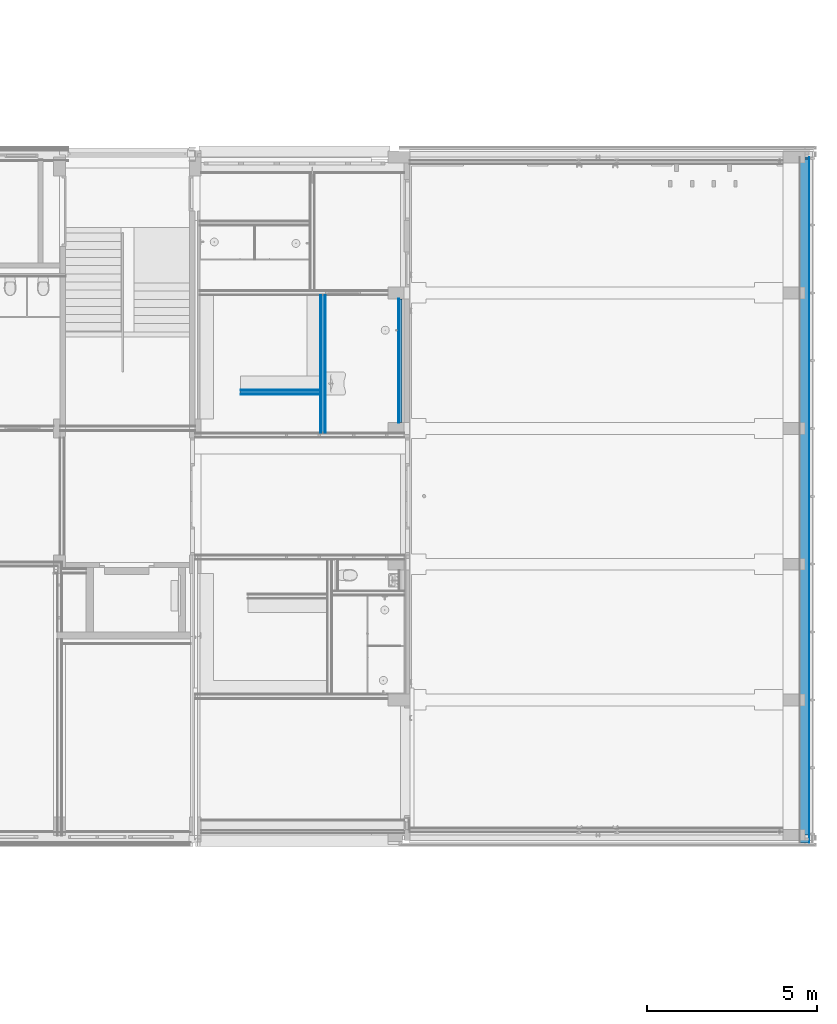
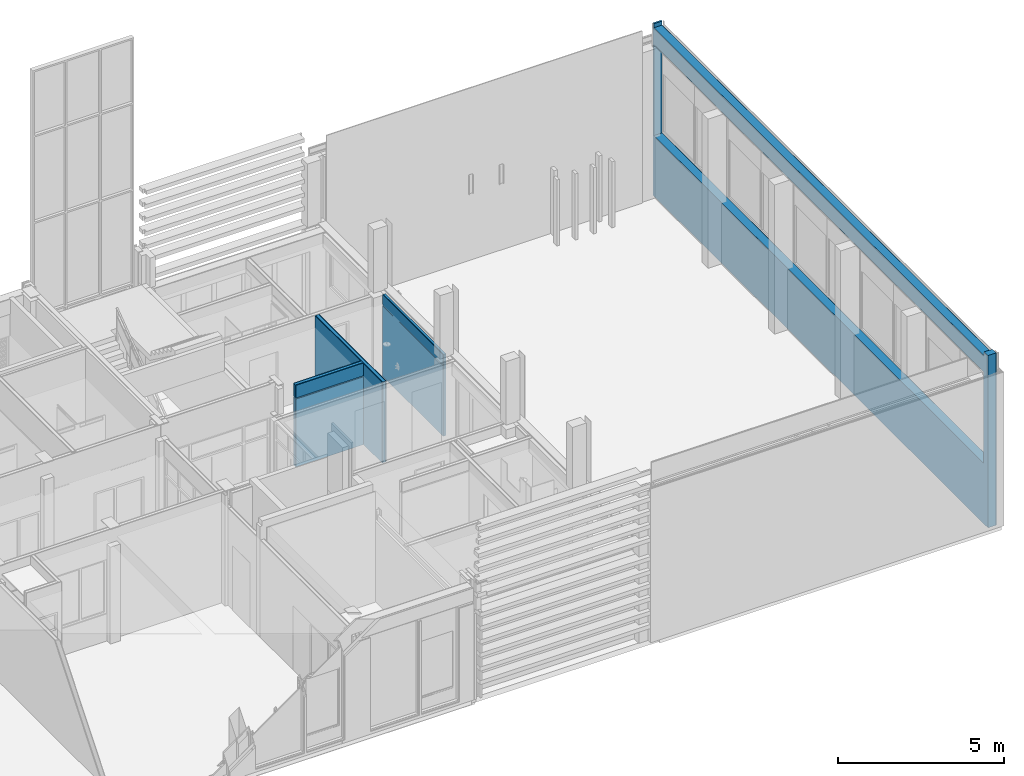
# One storey, part 80 of 109: 16 building element parts, 10 openings, 4 elements without a shape of their own.
"""IFC2X3 building model written with IfcOpenShell, lengths in millimetres."""

from ifc_helpers import new_model, entity, si_unit, converted_unit, derived_unit, money_unit, direction, frame, origin_with_axes, place, context, subcontext, project, spatial, faceted_brep, material, type_object, element, aggregate, save


model = new_model("IFC2X3")

# Units and contexts
model_context = context("Model", 3, precision=0.01, world=origin_with_axes(), true_north=direction((0.0, 1.0)))
body_context = subcontext(model_context, "Body", "Model", "MODEL_VIEW")
ifc_project = project(units=[si_unit("LENGTHUNIT", "METRE", prefix="MILLI"), si_unit("AREAUNIT", "SQUARE_METRE"), si_unit("VOLUMEUNIT", "CUBIC_METRE"), converted_unit("PLANEANGLEUNIT", "DEGREE", entity("IfcPlaneAngleMeasure", 0.0174532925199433), si_unit("PLANEANGLEUNIT", "RADIAN"), dimensions=[0, 0, 0, 0, 0, 0, 0]), money_unit("EUR"), converted_unit("TIMEUNIT", "Year", entity("IfcTimeMeasure", 31557600.0), si_unit("TIMEUNIT", "SECOND"), dimensions=[0, 0, 1, 0, 0, 0, 0]), si_unit("MASSUNIT", "GRAM", prefix="KILO"), si_unit("THERMODYNAMICTEMPERATUREUNIT", "DEGREE_CELSIUS"), si_unit("LUMINOUSINTENSITYUNIT", "LUMEN"), si_unit("ENERGYUNIT", "JOULE", prefix="MEGA"), derived_unit("THERMALCONDUCTANCEUNIT", [(si_unit("POWERUNIT", "WATT"), 1), (si_unit("LENGTHUNIT", "METRE"), -1), (si_unit("THERMODYNAMICTEMPERATUREUNIT", "KELVIN"), -1)]), derived_unit("SPECIFICHEATCAPACITYUNIT", [(si_unit("ENERGYUNIT", "JOULE"), 1), (si_unit("MASSUNIT", "GRAM", prefix="KILO"), -1), (si_unit("THERMODYNAMICTEMPERATUREUNIT", "KELVIN"), -1)]), derived_unit("MASSDENSITYUNIT", [(si_unit("MASSUNIT", "GRAM", prefix="KILO"), 1), (si_unit("VOLUMEUNIT", "CUBIC_METRE"), -1)])], contexts=[model_context])

# Site, building, storey
site_placement = place(None, origin_with_axes())
site = spatial("IfcSite", under=ifc_project, at=site_placement, Name="<site naam>", CompositionType="ELEMENT")
building_placement = place(site_placement, origin_with_axes())
building = spatial("IfcBuilding", under=site, at=building_placement, Name="<Naam gebouw>", CompositionType="ELEMENT")
storey_placement = place(building_placement, origin_with_axes())
storey = spatial("IfcBuildingStorey", under=building, at=storey_placement, Name="00 Begane grond", CompositionType="ELEMENT", Elevation=0.0)

# Wall, openings, building element parts
wall_type_1 = type_object("IfcWallType", Name="HSB_285 gevelbeplating 420", PredefinedType="NOTDEFINED")
wall_1_placement = place(storey_placement, frame((70205.99994042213, -214.0893451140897, 0.0), z_axis=(0.0, 0.0, 1.0), x_axis=(0.0, 1.0, 0.0)))
wall_1 = element("IfcWall", 1, at=wall_1_placement, inside=storey, type_object=wall_type_1, Name="21_Binnenwand_HSB_285")
opening_1_placement = place(wall_1_placement, frame((5214.089345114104, 0.0, 2228.02207453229), z_axis=(0.0, 0.0, 1.0), x_axis=(1.0, 0.0, 0.0)))
element("IfcOpeningElement", 2, at=opening_1_placement, cuts=wall_1, Name="21_BU-B-04_305", context=body_context, shape_type="Brep", body=[
    faceted_brep([(1000.0, 6.000000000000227, 0.0), (1000.0, 6.000000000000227, 3353.976173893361), (1000.0, -1.000000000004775, 3353.976173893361), (1000.0, -1.000000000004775, 0.0), (1000.0, 421.0000000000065, 0.0), (1000.0, 421.0000000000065, 3353.976173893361), (-1000.0, 6.000000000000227, 3353.976173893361), (-1000.0, -1.000000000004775, 3353.976173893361), (-1000.0, -1.000000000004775, 0.0), (-1000.0, 6.000000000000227, 0.0), (-1000.0, 421.0000000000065, 0.0), (-1000.0, 421.0000000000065, 3353.976173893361)], [[[0, 1, 2, 3]], [[1, 0, 4, 5]], [[1, 6, 7, 2]], [[7, 8, 3, 2]], [[9, 0, 3, 8]], [[0, 9, 10, 4]], [[5, 4, 10, 11]], [[6, 1, 5, 11]], [[6, 9, 8, 7]], [[9, 6, 11, 10]]]),
])
opening_2_placement = place(wall_1_placement, frame((9214.089345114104, 0.0, 2228.02207453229), z_axis=(0.0, 0.0, 1.0), x_axis=(1.0, 0.0, 0.0)))
element("IfcOpeningElement", 3, at=opening_2_placement, cuts=wall_1, Name="21_BU-B-04_305", context=body_context, shape_type="Brep", body=[
    faceted_brep([(1000.0, 6.000000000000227, 0.0), (1000.0, 6.000000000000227, 3353.976173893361), (1000.0, -1.000000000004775, 3353.976173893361), (1000.0, -1.000000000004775, 0.0), (1000.0, 421.0000000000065, 0.0), (1000.0, 421.0000000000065, 3353.976173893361), (-1000.0, 6.000000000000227, 3353.976173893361), (-1000.0, -1.000000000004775, 3353.976173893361), (-1000.0, -1.000000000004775, 0.0), (-1000.0, 6.000000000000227, 0.0), (-1000.0, 421.0000000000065, 0.0), (-1000.0, 421.0000000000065, 3353.976173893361)], [[[0, 1, 2, 3]], [[1, 0, 4, 5]], [[1, 6, 7, 2]], [[7, 8, 3, 2]], [[9, 0, 3, 8]], [[0, 9, 10, 4]], [[5, 4, 10, 11]], [[6, 1, 5, 11]], [[6, 9, 8, 7]], [[9, 6, 11, 10]]]),
])
opening_3_placement = place(wall_1_placement, frame((17214.08934511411, 0.0, 2228.02207453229), z_axis=(0.0, 0.0, 1.0), x_axis=(1.0, 0.0, 0.0)))
element("IfcOpeningElement", 4, at=opening_3_placement, cuts=wall_1, Name="21_BU-B-04_305", context=body_context, shape_type="Brep", body=[
    faceted_brep([(1000.0, 6.000000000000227, 0.0), (1000.0, 6.000000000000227, 3353.976173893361), (1000.0, -1.000000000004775, 3353.976173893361), (1000.0, -1.000000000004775, 0.0), (1000.0, 421.0000000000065, 0.0), (1000.0, 421.0000000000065, 3353.976173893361), (-1000.0, 6.000000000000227, 3353.976173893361), (-1000.0, -1.000000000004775, 3353.976173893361), (-1000.0, -1.000000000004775, 0.0), (-1000.0, 6.000000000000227, 0.0), (-1000.0, 421.0000000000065, 0.0), (-1000.0, 421.0000000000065, 3353.976173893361)], [[[0, 1, 2, 3]], [[1, 0, 4, 5]], [[1, 6, 7, 2]], [[7, 8, 3, 2]], [[9, 0, 3, 8]], [[0, 9, 10, 4]], [[5, 4, 10, 11]], [[6, 1, 5, 11]], [[6, 9, 8, 7]], [[9, 6, 11, 10]]]),
])
opening_4_placement = place(wall_1_placement, frame((3214.089345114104, 0.0, 2228.02207453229), z_axis=(0.0, 0.0, 1.0), x_axis=(1.0, 0.0, 0.0)))
element("IfcOpeningElement", 5, at=opening_4_placement, cuts=wall_1, Name="21_BU-B-04_305", context=body_context, shape_type="Brep", body=[
    faceted_brep([(999.9999999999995, 6.000000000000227, 0.0), (999.9999999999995, 6.000000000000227, 3353.976173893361), (999.9999999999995, -1.000000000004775, 3353.976173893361), (999.9999999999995, -1.000000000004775, 0.0), (999.9999999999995, 421.0000000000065, 0.0), (999.9999999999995, 421.0000000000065, 3353.976173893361), (-1000.0, 6.000000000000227, 3353.976173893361), (-1000.0, -1.000000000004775, 3353.976173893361), (-1000.0, -1.000000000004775, 0.0), (-1000.0, 6.000000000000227, 0.0), (-1000.0, 421.0000000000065, 0.0), (-1000.0, 421.0000000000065, 3353.976173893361)], [[[0, 1, 2, 3]], [[1, 0, 4, 5]], [[1, 6, 7, 2]], [[7, 8, 3, 2]], [[9, 0, 3, 8]], [[0, 9, 10, 4]], [[5, 4, 10, 11]], [[6, 1, 5, 11]], [[6, 9, 8, 7]], [[9, 6, 11, 10]]]),
])
opening_5_placement = place(wall_1_placement, frame((13214.0893451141, 0.0, 2228.02207453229), z_axis=(0.0, 0.0, 1.0), x_axis=(1.0, 0.0, 0.0)))
element("IfcOpeningElement", 6, at=opening_5_placement, cuts=wall_1, Name="21_BU-B-04_305", context=body_context, shape_type="Brep", body=[
    faceted_brep([(1000.0, 6.000000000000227, 0.0), (1000.0, 6.000000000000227, 3353.976173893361), (1000.0, -1.000000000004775, 3353.976173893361), (1000.0, -1.000000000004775, 0.0), (1000.0, 421.0000000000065, 0.0), (1000.0, 421.0000000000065, 3353.976173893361), (-1000.0, 6.000000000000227, 3353.976173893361), (-1000.0, -1.000000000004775, 3353.976173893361), (-1000.0, -1.000000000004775, 0.0), (-1000.0, 6.000000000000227, 0.0), (-1000.0, 421.0000000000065, 0.0), (-1000.0, 421.0000000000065, 3353.976173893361)], [[[0, 1, 2, 3]], [[1, 0, 4, 5]], [[1, 6, 7, 2]], [[7, 8, 3, 2]], [[9, 0, 3, 8]], [[0, 9, 10, 4]], [[5, 4, 10, 11]], [[6, 1, 5, 11]], [[6, 9, 8, 7]], [[9, 6, 11, 10]]]),
])
opening_6_placement = place(wall_1_placement, frame((1244.089344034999, 0.0, 2228.02207453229), z_axis=(0.0, 0.0, 1.0), x_axis=(1.0, 0.0, 0.0)))
element("IfcOpeningElement", 7, at=opening_6_placement, cuts=wall_1, Name="21_BU-B-03_305", context=body_context, shape_type="Brep", body=[
    faceted_brep([(969.9999984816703, 6.000000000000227, 0.0), (969.9999984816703, 6.000000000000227, 3353.976173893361), (969.9999984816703, -1.000000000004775, 3353.976173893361), (969.9999984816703, -1.000000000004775, 0.0), (969.9999984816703, 421.0000000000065, 0.0), (969.9999984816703, 421.0000000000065, 3353.976173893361), (-969.9999984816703, 6.000000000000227, 3353.976173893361), (-969.9999984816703, -1.000000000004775, 3353.976173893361), (-969.9999984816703, -1.000000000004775, 0.0), (-969.9999984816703, 6.000000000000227, 0.0), (-969.9999984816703, 421.0000000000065, 0.0), (-969.9999984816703, 421.0000000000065, 3353.976173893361)], [[[0, 1, 2, 3]], [[1, 0, 4, 5]], [[1, 6, 7, 2]], [[7, 8, 3, 2]], [[9, 0, 3, 8]], [[0, 9, 10, 4]], [[5, 4, 10, 11]], [[6, 1, 5, 11]], [[6, 9, 8, 7]], [[9, 6, 11, 10]]]),
])
opening_7_placement = place(wall_1_placement, frame((7214.089345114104, 0.0, 2228.02207453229), z_axis=(0.0, 0.0, 1.0), x_axis=(1.0, 0.0, 0.0)))
element("IfcOpeningElement", 8, at=opening_7_placement, cuts=wall_1, Name="21_BU-B-04_305", context=body_context, shape_type="Brep", body=[
    faceted_brep([(1000.0, 6.000000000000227, 0.0), (1000.0, 6.000000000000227, 3353.976173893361), (1000.0, -1.000000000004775, 3353.976173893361), (1000.0, -1.000000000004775, 0.0), (1000.0, 421.0000000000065, 0.0), (1000.0, 421.0000000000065, 3353.976173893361), (-1000.0, 6.000000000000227, 3353.976173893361), (-1000.0, -1.000000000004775, 3353.976173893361), (-1000.0, -1.000000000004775, 0.0), (-1000.0, 6.000000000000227, 0.0), (-1000.0, 421.0000000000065, 0.0), (-1000.0, 421.0000000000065, 3353.976173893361)], [[[0, 1, 2, 3]], [[1, 0, 4, 5]], [[1, 6, 7, 2]], [[7, 8, 3, 2]], [[9, 0, 3, 8]], [[0, 9, 10, 4]], [[5, 4, 10, 11]], [[6, 1, 5, 11]], [[6, 9, 8, 7]], [[9, 6, 11, 10]]]),
])
opening_8_placement = place(wall_1_placement, frame((11214.0893451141, 0.0, 2228.02207453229), z_axis=(0.0, 0.0, 1.0), x_axis=(1.0, 0.0, 0.0)))
element("IfcOpeningElement", 9, at=opening_8_placement, cuts=wall_1, Name="21_BU-B-04_305", context=body_context, shape_type="Brep", body=[
    faceted_brep([(1000.0, 6.000000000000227, 0.0), (1000.0, 6.000000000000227, 3353.976173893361), (1000.0, -1.000000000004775, 3353.976173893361), (1000.0, -1.000000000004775, 0.0), (1000.0, 421.0000000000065, 0.0), (1000.0, 421.0000000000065, 3353.976173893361), (-1000.0, 6.000000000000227, 3353.976173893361), (-1000.0, -1.000000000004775, 3353.976173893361), (-1000.0, -1.000000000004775, 0.0), (-1000.0, 6.000000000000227, 0.0), (-1000.0, 421.0000000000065, 0.0), (-1000.0, 421.0000000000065, 3353.976173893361)], [[[0, 1, 2, 3]], [[1, 0, 4, 5]], [[1, 6, 7, 2]], [[7, 8, 3, 2]], [[9, 0, 3, 8]], [[0, 9, 10, 4]], [[5, 4, 10, 11]], [[6, 1, 5, 11]], [[6, 9, 8, 7]], [[9, 6, 11, 10]]]),
])
opening_9_placement = place(wall_1_placement, frame((19184.08934359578, 0.0, 2228.02207453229), z_axis=(0.0, 0.0, 1.0), x_axis=(1.0, 0.0, 0.0)))
element("IfcOpeningElement", 10, at=opening_9_placement, cuts=wall_1, Name="21_BU-B-03 sp_305", context=body_context, shape_type="Brep", body=[
    faceted_brep([(969.999998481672, 6.000000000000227, 0.0), (969.999998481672, 6.000000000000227, 3353.976173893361), (969.999998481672, -1.000000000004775, 3353.976173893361), (969.999998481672, -1.000000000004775, 0.0), (969.999998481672, 421.0000000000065, 0.0), (969.999998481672, 421.0000000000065, 3353.976173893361), (-969.999998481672, 6.000000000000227, 3353.976173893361), (-969.999998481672, -1.000000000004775, 3353.976173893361), (-969.999998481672, -1.000000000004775, 0.0), (-969.999998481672, 6.000000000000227, 0.0), (-969.999998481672, 421.0000000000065, 0.0), (-969.999998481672, 421.0000000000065, 3353.976173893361)], [[[0, 1, 2, 3]], [[1, 0, 4, 5]], [[1, 6, 7, 2]], [[7, 8, 3, 2]], [[9, 0, 3, 8]], [[0, 9, 10, 4]], [[5, 4, 10, 11]], [[6, 1, 5, 11]], [[6, 9, 8, 7]], [[9, 6, 11, 10]]]),
])
opening_10_placement = place(wall_1_placement, frame((15214.0893451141, 0.0, 2228.02207453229), z_axis=(0.0, 0.0, 1.0), x_axis=(1.0, 0.0, 0.0)))
element("IfcOpeningElement", 11, at=opening_10_placement, cuts=wall_1, Name="21_BU-B-04_305", context=body_context, shape_type="Brep", body=[
    faceted_brep([(1000.000000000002, 6.000000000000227, 0.0), (1000.000000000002, 6.000000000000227, 3353.976173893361), (1000.000000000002, -1.000000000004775, 3353.976173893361), (1000.000000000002, -1.000000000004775, 0.0), (1000.000000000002, 421.0000000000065, 0.0), (1000.000000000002, 421.0000000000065, 3353.976173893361), (-1000.0, 6.000000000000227, 3353.976173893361), (-1000.0, -1.000000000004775, 3353.976173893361), (-1000.0, -1.000000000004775, 0.0), (-1000.0, 6.000000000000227, 0.0), (-1000.0, 421.0000000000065, 0.0), (-1000.0, 421.0000000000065, 3353.976173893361)], [[[0, 1, 2, 3]], [[1, 0, 4, 5]], [[1, 6, 7, 2]], [[7, 8, 3, 2]], [[9, 0, 3, 8]], [[0, 9, 10, 4]], [[5, 4, 10, 11]], [[6, 1, 5, 11]], [[6, 9, 8, 7]], [[9, 6, 11, 10]]]),
])
ifc_material_1 = material(Name="brandwerende_bekleding")
building_element_part_1_placement = place(wall_1_placement, origin_with_axes())
building_element_part_1 = element("IfcBuildingElementPart", 12, at=building_element_part_1_placement, material=ifc_material_1, Name="brandwerende_bekleding", context=body_context, shape_type="Brep", body=[
    faceted_brep([(20154.08934511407, 106.9999999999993, 6345.0), (20154.08934511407, 102.5000000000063, 6345.0), (20214.08934511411, 102.5000000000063, 6345.0), (20214.08934511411, 106.9999999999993, 6345.0), (20154.08934511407, 102.5000000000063, 6194.999999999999), (20154.08934511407, 106.9999999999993, 6194.999999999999), (225.0000232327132, 102.5000000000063, 6194.999999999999), (225.0000232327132, 102.5000000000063, 6345.0), (0.0, 102.5000000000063, 6345.0), (0.0, 102.5000000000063, 0.0), (20214.08934511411, 102.5000000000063, 0.0), (20214.08934511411, 106.9999999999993, 0.0), (0.0, 106.9999999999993, 0.0), (0.0, 106.9999999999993, 6345.0), (225.0000232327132, 106.9999999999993, 6345.0), (225.0000232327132, 106.9999999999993, 6194.999999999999)], [[[0, 1, 2, 3]], [[4, 1, 0, 5]], [[6, 7, 8, 9, 10, 2, 1, 4]], [[10, 11, 3, 2]], [[5, 0, 3, 11, 12, 13, 14, 15]], [[6, 4, 5, 15]], [[14, 7, 6, 15]], [[7, 14, 13, 8]], [[13, 12, 9, 8]], [[12, 11, 10, 9]]]),
])
ifc_material_2 = material(Name="folie_dampopen")
building_element_part_2_placement = place(wall_1_placement, origin_with_axes())
building_element_part_2 = element("IfcBuildingElementPart", 13, at=building_element_part_2_placement, material=ifc_material_2, Name="folie_dampopen", context=body_context, shape_type="Brep", body=[
    faceted_brep([(20154.08934511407, 102.5000000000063, 6345.0), (20154.08934511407, 102.0000000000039, 6345.0), (20214.08934511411, 102.0000000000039, 6345.0), (20214.08934511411, 102.5000000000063, 6345.0), (20154.08934511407, 102.0000000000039, 6194.999999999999), (20154.08934511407, 102.5000000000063, 6194.999999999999), (225.0000232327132, 102.0000000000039, 6194.999999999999), (225.0000232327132, 102.0000000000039, 6345.0), (0.0, 102.0000000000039, 6345.0), (0.0, 102.0000000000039, 0.0), (20214.08934511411, 102.0000000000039, 0.0), (20214.08934511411, 102.5000000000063, 0.0), (0.0, 102.5000000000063, 0.0), (0.0, 102.5000000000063, 6345.0), (225.0000232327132, 102.5000000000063, 6345.0), (225.0000232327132, 102.5000000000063, 6194.999999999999)], [[[0, 1, 2, 3]], [[4, 1, 0, 5]], [[6, 7, 8, 9, 10, 2, 1, 4]], [[10, 11, 3, 2]], [[5, 0, 3, 11, 12, 13, 14, 15]], [[6, 4, 5, 15]], [[14, 7, 6, 15]], [[7, 14, 13, 8]], [[13, 12, 9, 8]], [[12, 11, 10, 9]]]),
])
ifc_material_3 = material(Name="isolatie_houtvezel")
building_element_part_3_placement = place(wall_1_placement, origin_with_axes())
building_element_part_3 = element("IfcBuildingElementPart", 14, at=building_element_part_3_placement, material=ifc_material_3, Name="isolatie_houtvezel", context=body_context, shape_type="Brep", body=[
    faceted_brep([(20154.08934511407, 391.9999999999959, 6345.0), (20154.08934511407, 106.9999999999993, 6345.0), (20214.08934511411, 106.9999999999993, 6345.0), (20214.08934511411, 391.9999999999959, 6345.0), (20154.08934511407, 106.9999999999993, 6194.999999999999), (20154.08934511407, 391.9999999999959, 6194.999999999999), (225.0000232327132, 106.9999999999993, 6194.999999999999), (225.0000232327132, 106.9999999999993, 6345.0), (0.0, 106.9999999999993, 6345.0), (0.0, 106.9999999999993, 0.0), (20214.08934511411, 106.9999999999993, 0.0), (20214.08934511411, 391.9999999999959, 0.0), (0.0, 391.9999999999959, 0.0), (0.0, 391.9999999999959, 6345.0), (225.0000232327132, 391.9999999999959, 6345.0), (225.0000232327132, 391.9999999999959, 6194.999999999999)], [[[0, 1, 2, 3]], [[4, 1, 0, 5]], [[6, 7, 8, 9, 10, 2, 1, 4]], [[10, 11, 3, 2]], [[5, 0, 3, 11, 12, 13, 14, 15]], [[6, 4, 5, 15]], [[14, 7, 6, 15]], [[7, 14, 13, 8]], [[13, 12, 9, 8]], [[12, 11, 10, 9]]]),
])
aggregate(wall_1, [building_element_part_1, building_element_part_2, building_element_part_3])

# Wall, building element parts
wall_type_2 = type_object("IfcWallType", Name="MS-01 GF 150 ECO DGS/2.100.2.A 150", PredefinedType="NOTDEFINED")
wall_2_placement = place(storey_placement, frame((53334.99999874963, 13145.00000396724, 0.0), z_axis=(0.0, 0.0, 1.0), x_axis=(1.0, 0.0, 0.0)))
wall_2 = element("IfcWall", 15, at=wall_2_placement, inside=storey, type_object=wall_type_2, Name="22_Binnenwand_MS-01")
ifc_material_4 = material(Name="gipsplaat")
building_element_part_4_placement = place(wall_2_placement, origin_with_axes())
building_element_part_4 = element("IfcBuildingElementPart", 16, at=building_element_part_4_placement, material=ifc_material_4, Name="gipsplaat", context=body_context, shape_type="Brep", body=[
    faceted_brep([(0.0, 0.0, 2500.0), (2355.999975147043, -9.980816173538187e-08, 2500.0), (2356.000004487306, -9.980816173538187e-08, 3.000000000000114), (0.0, 0.0, 3.000000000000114), (2355.99997514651, -12.50000009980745, 2500.0), (-5.329070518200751e-10, -12.49999999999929, 2500.0), (2356.000004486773, -12.50000009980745, 2.999999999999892), (-5.329070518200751e-10, -12.49999999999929, 2.999999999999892)], [[[0, 1, 2, 3]], [[4, 1, 0, 5]], [[1, 4, 6, 2]], [[3, 2, 6, 7]], [[5, 0, 3, 7]], [[4, 5, 7, 6]]]),
    faceted_brep([(2355.99997514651, -12.50000009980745, 2540.0), (2355.999975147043, -9.980816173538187e-08, 2540.0), (2356.000004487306, -9.980816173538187e-08, 3008.0), (2356.000004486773, -12.50000009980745, 3008.0), (0.0, 0.0, 2540.0), (-5.329070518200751e-10, -12.49999999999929, 2540.0), (0.0, 0.0, 3008.0), (-5.329070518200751e-10, -12.49999999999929, 3008.0)], [[[0, 1, 2, 3]], [[4, 1, 0, 5]], [[1, 4, 6, 2]], [[3, 2, 6, 7]], [[5, 0, 3, 7]], [[4, 5, 7, 6]]]),
])
building_element_part_5_placement = place(wall_2_placement, origin_with_axes())
building_element_part_5 = element("IfcBuildingElementPart", 17, at=building_element_part_5_placement, material=ifc_material_4, Name="gipsplaat", context=body_context, shape_type="Brep", body=[
    faceted_brep([(-5.329070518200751e-10, -12.49999999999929, 2500.0), (2355.99997514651, -12.50000009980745, 2500.0), (2356.000004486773, -12.50000009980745, 3.000000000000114), (-5.329070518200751e-10, -12.49999999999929, 3.000000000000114), (2355.999975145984, -25.00000009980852, 2500.0), (-1.058708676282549e-09, -25.00000000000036, 2500.0), (2356.000004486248, -25.00000009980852, 2.999999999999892), (-1.058708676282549e-09, -25.00000000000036, 2.999999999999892)], [[[0, 1, 2, 3]], [[4, 1, 0, 5]], [[1, 4, 6, 2]], [[3, 2, 6, 7]], [[5, 0, 3, 7]], [[4, 5, 7, 6]]]),
    faceted_brep([(2355.999975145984, -25.00000009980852, 2540.0), (2355.99997514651, -12.50000009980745, 2540.0), (2356.000004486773, -12.50000009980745, 3008.0), (2356.000004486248, -25.00000009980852, 3008.0), (-5.329070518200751e-10, -12.49999999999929, 2540.0), (-1.058708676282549e-09, -25.00000000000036, 2540.0), (-5.329070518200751e-10, -12.49999999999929, 3008.0), (-1.058708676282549e-09, -25.00000000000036, 3008.0)], [[[0, 1, 2, 3]], [[4, 1, 0, 5]], [[1, 4, 6, 2]], [[3, 2, 6, 7]], [[5, 0, 3, 7]], [[4, 5, 7, 6]]]),
])
ifc_material_5 = material(Name="isolatie_steenwol LSW")
building_element_part_6_placement = place(wall_2_placement, origin_with_axes())
building_element_part_6 = element("IfcBuildingElementPart", 18, at=building_element_part_6_placement, material=ifc_material_5, Name="isolatie_steenwol LSW", context=body_context, shape_type="Brep", body=[
    faceted_brep([(-1.058708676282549e-09, -25.00000000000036, 2500.0), (2355.999975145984, -25.00000009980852, 2500.0), (2356.000004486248, -25.00000009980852, 3.000000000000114), (-1.058708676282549e-09, -25.00000000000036, 3.000000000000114), (2355.999975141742, -125.0000000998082, 2500.0), (-5.300648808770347e-09, -125.0, 2500.0), (2356.000004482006, -125.0000000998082, 2.999999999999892), (-5.300648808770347e-09, -125.0, 2.999999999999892)], [[[0, 1, 2, 3]], [[4, 1, 0, 5]], [[1, 4, 6, 2]], [[3, 2, 6, 7]], [[5, 0, 3, 7]], [[4, 5, 7, 6]]]),
    faceted_brep([(2355.999975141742, -125.0000000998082, 2540.0), (2355.999975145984, -25.00000009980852, 2540.0), (2356.000004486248, -25.00000009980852, 3008.0), (2356.000004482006, -125.0000000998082, 3008.0), (-1.058708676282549e-09, -25.00000000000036, 2540.0), (-5.300648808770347e-09, -125.0, 2540.0), (-1.058708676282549e-09, -25.00000000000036, 3008.0), (-5.300648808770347e-09, -125.0, 3008.0)], [[[0, 1, 2, 3]], [[4, 1, 0, 5]], [[1, 4, 6, 2]], [[3, 2, 6, 7]], [[5, 0, 3, 7]], [[4, 5, 7, 6]]]),
])
building_element_part_7_placement = place(wall_2_placement, origin_with_axes())
building_element_part_7 = element("IfcBuildingElementPart", 19, at=building_element_part_7_placement, material=ifc_material_4, Name="gipsplaat", context=body_context, shape_type="Brep", body=[
    faceted_brep([(-5.826450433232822e-09, -137.4999999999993, 2500.0), (2355.999975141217, -137.5000000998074, 2500.0), (2356.00000448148, -137.5000000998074, 3.000000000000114), (-5.826450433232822e-09, -137.4999999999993, 3.000000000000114), (2355.999975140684, -150.0000000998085, 2500.0), (-6.359357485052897e-09, -150.0000000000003, 2500.0), (2356.000004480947, -150.0000000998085, 2.999999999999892), (-6.359357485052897e-09, -150.0000000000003, 2.999999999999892)], [[[0, 1, 2, 3]], [[4, 1, 0, 5]], [[1, 4, 6, 2]], [[3, 2, 6, 7]], [[5, 0, 3, 7]], [[4, 5, 7, 6]]]),
    faceted_brep([(2355.999975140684, -150.0000000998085, 2540.0), (2355.999975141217, -137.5000000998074, 2540.0), (2356.00000448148, -137.5000000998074, 3008.0), (2356.000004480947, -150.0000000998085, 3008.0), (-5.826450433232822e-09, -137.4999999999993, 2540.0), (-6.359357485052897e-09, -150.0000000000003, 2540.0), (-5.826450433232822e-09, -137.4999999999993, 3008.0), (-6.359357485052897e-09, -150.0000000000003, 3008.0)], [[[0, 1, 2, 3]], [[4, 1, 0, 5]], [[1, 4, 6, 2]], [[3, 2, 6, 7]], [[5, 0, 3, 7]], [[4, 5, 7, 6]]]),
])
building_element_part_8_placement = place(wall_2_placement, origin_with_axes())
building_element_part_8 = element("IfcBuildingElementPart", 20, at=building_element_part_8_placement, material=ifc_material_4, Name="gipsplaat", context=body_context, shape_type="Brep", body=[
    faceted_brep([(-5.300648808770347e-09, -125.0, 2500.0), (2355.999975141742, -125.0000000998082, 2500.0), (2356.000004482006, -125.0000000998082, 3.000000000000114), (-5.300648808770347e-09, -125.0, 3.000000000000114), (2355.999975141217, -137.5000000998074, 2500.0), (-5.826450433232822e-09, -137.4999999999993, 2500.0), (2356.00000448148, -137.5000000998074, 2.999999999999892), (-5.826450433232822e-09, -137.4999999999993, 2.999999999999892)], [[[0, 1, 2, 3]], [[4, 1, 0, 5]], [[1, 4, 6, 2]], [[3, 2, 6, 7]], [[5, 0, 3, 7]], [[4, 5, 7, 6]]]),
    faceted_brep([(2355.999975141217, -137.5000000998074, 2540.0), (2355.999975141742, -125.0000000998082, 2540.0), (2356.000004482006, -125.0000000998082, 3008.0), (2356.00000448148, -137.5000000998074, 3008.0), (-5.300648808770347e-09, -125.0, 2540.0), (-5.826450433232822e-09, -137.4999999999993, 2540.0), (-5.300648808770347e-09, -125.0, 3008.0), (-5.826450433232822e-09, -137.4999999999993, 3008.0)], [[[0, 1, 2, 3]], [[4, 1, 0, 5]], [[1, 4, 6, 2]], [[3, 2, 6, 7]], [[5, 0, 3, 7]], [[4, 5, 7, 6]]]),
])
aggregate(wall_2, [building_element_part_4, building_element_part_5, building_element_part_6, building_element_part_7, building_element_part_8])

wall_3_placement = place(storey_placement, frame((55841.00000323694, 16000.00000000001, 0.0), z_axis=(0.0, 0.0, 1.0), x_axis=(0.0, -1.0, 0.0)))
wall_3 = element("IfcWall", 21, at=wall_3_placement, inside=storey, type_object=wall_type_2, Name="22_Binnenwand_MS-01")
building_element_part_9_placement = place(wall_3_placement, origin_with_axes())
building_element_part_9 = element("IfcBuildingElementPart", 22, at=building_element_part_9_placement, material=ifc_material_4, Name="gipsplaat", context=body_context, shape_type="Brep", body=[
    faceted_brep([(75.00000034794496, -12.50000000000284, 2978.0), (75.00000034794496, 0.0, 2978.0), (75.00003485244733, 0.0, 2.999999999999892), (75.00003485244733, -12.50000000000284, 2.999999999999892), (4125.000000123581, 0.0, 2978.0), (4125.000000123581, -12.50000000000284, 2978.0), (4125.000012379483, 0.0, 2.999999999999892), (4125.000012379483, -12.50000000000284, 2.999999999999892)], [[[0, 1, 2, 3]], [[4, 1, 0, 5]], [[1, 4, 6, 2]], [[7, 3, 2, 6]], [[5, 0, 3, 7]], [[4, 5, 7, 6]]]),
])
building_element_part_10_placement = place(wall_3_placement, origin_with_axes())
building_element_part_10 = element("IfcBuildingElementPart", 23, at=building_element_part_10_placement, material=ifc_material_4, Name="gipsplaat", context=body_context, shape_type="Brep", body=[
    faceted_brep([(75.00000034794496, -25.00000088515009, 2978.0), (75.00000034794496, -12.50000000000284, 2978.0), (75.00003485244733, -12.50000000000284, 2.999999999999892), (75.00003485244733, -25.00000000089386, 2.999999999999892), (4125.000000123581, -12.50000000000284, 2978.0), (4125.000000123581, -25.00000088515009, 2978.0), (4125.000012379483, -12.50000000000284, 2.999999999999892), (4125.000012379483, -25.00000000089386, 2.999999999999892)], [[[0, 1, 2, 3]], [[4, 1, 0, 5]], [[1, 4, 6, 2]], [[7, 3, 2, 6]], [[5, 0, 3, 7]], [[4, 5, 7, 6]]]),
])
building_element_part_11_placement = place(wall_3_placement, origin_with_axes())
building_element_part_11 = element("IfcBuildingElementPart", 24, at=building_element_part_11_placement, material=ifc_material_4, Name="gipsplaat", context=body_context, shape_type="Brep", body=[
    faceted_brep([(75.00000034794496, -137.5000000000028, 2978.0), (75.00000034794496, -124.9999991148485, 2978.0), (75.00003485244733, -124.9999999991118, 2.999999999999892), (75.00003485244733, -137.5000000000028, 2.999999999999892), (4125.000000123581, -124.9999991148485, 2978.0), (4125.000000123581, -137.5000000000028, 2978.0), (4125.000012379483, -124.9999999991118, 2.999999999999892), (4125.000012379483, -137.5000000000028, 2.999999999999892)], [[[0, 1, 2, 3]], [[4, 1, 0, 5]], [[1, 4, 6, 2]], [[7, 3, 2, 6]], [[5, 0, 3, 7]], [[4, 5, 7, 6]]]),
])
building_element_part_12_placement = place(wall_3_placement, origin_with_axes())
building_element_part_12 = element("IfcBuildingElementPart", 25, at=building_element_part_12_placement, material=ifc_material_5, Name="isolatie_steenwol LSW", context=body_context, shape_type="Brep", body=[
    faceted_brep([(75.00000034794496, -124.9999991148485, 2978.0), (75.00000034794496, -25.00000088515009, 2978.0), (75.00003485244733, -25.00000000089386, 2.999999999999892), (75.00003485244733, -124.9999999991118, 2.999999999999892), (4125.000000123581, -25.00000088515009, 2978.0), (4125.000000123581, -124.9999991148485, 2978.0), (4125.000012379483, -25.00000000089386, 2.999999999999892), (4125.000012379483, -124.9999999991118, 2.999999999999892)], [[[0, 1, 2, 3]], [[4, 1, 0, 5]], [[1, 4, 6, 2]], [[7, 3, 2, 6]], [[5, 0, 3, 7]], [[4, 5, 7, 6]]]),
])
building_element_part_13_placement = place(wall_3_placement, origin_with_axes())
building_element_part_13 = element("IfcBuildingElementPart", 26, at=building_element_part_13_placement, material=ifc_material_4, Name="gipsplaat", context=body_context, shape_type="Brep", body=[
    faceted_brep([(75.00000034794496, -150.0000004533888, 2978.0), (75.00000034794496, -137.5000000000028, 2978.0), (75.00003485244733, -137.5000000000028, 2.999999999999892), (75.00003485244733, -150.0000454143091, 2.999999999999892), (4125.000000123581, -137.5000000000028, 2978.0), (4125.000000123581, -149.9999999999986, 2978.0), (4125.000012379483, -137.5000000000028, 2.999999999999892), (4125.000012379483, -149.9999999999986, 2.999999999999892)], [[[0, 1, 2, 3]], [[4, 1, 0, 5]], [[1, 4, 6, 2]], [[7, 3, 2, 6]], [[5, 0, 3, 7]], [[4, 5, 7, 6]]]),
])
aggregate(wall_3, [building_element_part_9, building_element_part_10, building_element_part_11, building_element_part_12, building_element_part_13])

wall_type_3 = type_object("IfcWallType", Name="MS-03 GF 100 HTT DGS V/100.2 100", PredefinedType="NOTDEFINED")
wall_4_placement = place(storey_placement, frame((57987.9998014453, 12175.00000000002, 0.0), z_axis=(0.0, 0.0, 1.0), x_axis=(7.621875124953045e-08, 0.9999999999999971, 0.0)))
wall_4 = element("IfcWall", 27, at=wall_4_placement, inside=storey, type_object=wall_type_3, Name="22_Binnenwand_MS-03")
building_element_part_14_placement = place(wall_4_placement, origin_with_axes())
building_element_part_14 = element("IfcBuildingElementPart", 28, at=building_element_part_14_placement, material=ifc_material_4, Name="gipsplaat", context=body_context, shape_type="Brep", body=[
    faceted_brep([(3649.999999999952, 0.0002781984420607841, 2600.0), (3650.000000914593, -11.99992918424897, 2600.0), (3650.000000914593, -11.99992918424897, 2640.0), (3649.999999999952, 0.0002781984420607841, 2640.0), (3649.999999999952, 0.0002781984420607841, 3008.0), (3650.000000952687, -12.49972180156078, 3008.0), (3650.000000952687, -12.49972180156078, 0.0), (3649.999999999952, 0.0002781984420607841, 0.0), (0.0, 0.0, 2600.0), (9.146408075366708e-07, -12.00020738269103, 2600.0), (9.146408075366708e-07, -12.00020738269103, 2640.0), (0.0, 0.0, 2640.0), (0.0, 0.0, 3008.0), (9.527347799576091e-07, -12.50000000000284, 3008.0), (9.527347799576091e-07, -12.50000000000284, 0.0), (0.0, 0.0, 0.0)], [[[0, 1, 2, 3, 4, 5, 6, 7]], [[1, 0, 8, 9]], [[2, 1, 9, 10]], [[3, 2, 10, 11]], [[3, 11, 12, 4]], [[13, 5, 4, 12]], [[14, 6, 5, 13]], [[15, 7, 6, 14]], [[8, 0, 7, 15]], [[9, 8, 15, 14, 13, 12, 11, 10]]]),
])
building_element_part_15_placement = place(wall_4_placement, origin_with_axes())
building_element_part_15 = element("IfcBuildingElementPart", 29, at=building_element_part_15_placement, material=ifc_material_4, Name="gipsplaat", context=body_context, shape_type="Brep", body=[
    faceted_brep([(3650.000001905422, -24.99972180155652, 3008.0), (3650.000000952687, -12.49972180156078, 3008.0), (9.527347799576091e-07, -12.50000000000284, 3008.0), (1.905469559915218e-06, -24.99999999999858, 3008.0), (3650.000001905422, -24.99972180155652, 0.0), (3650.000000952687, -12.49972180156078, 0.0), (9.527347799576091e-07, -12.50000000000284, 0.0), (1.905469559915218e-06, -24.99999999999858, 0.0)], [[[0, 1, 2, 3]], [[0, 4, 5, 1]], [[1, 5, 6, 2]], [[3, 2, 6, 7]], [[4, 0, 3, 7]], [[5, 4, 7, 6]]]),
])
building_element_part_16_placement = place(wall_4_placement, origin_with_axes())
building_element_part_16 = element("IfcBuildingElementPart", 30, at=building_element_part_16_placement, material=ifc_material_5, Name="isolatie_steenwol LSW", context=body_context, shape_type="Brep", body=[
    faceted_brep([(3650.000007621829, -99.99972180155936, 3008.0), (3650.000001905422, -24.99972180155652, 3008.0), (1.905469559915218e-06, -24.99999999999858, 3008.0), (7.621876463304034e-06, -100.0000000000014, 3008.0), (3650.000007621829, -99.99972180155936, 0.0), (3650.000001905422, -24.99972180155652, 0.0), (1.905469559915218e-06, -24.99999999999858, 0.0), (7.621876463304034e-06, -100.0000000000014, 0.0)], [[[0, 1, 2, 3]], [[0, 4, 5, 1]], [[1, 5, 6, 2]], [[3, 2, 6, 7]], [[4, 0, 3, 7]], [[5, 4, 7, 6]]]),
])
aggregate(wall_4, [building_element_part_14, building_element_part_15, building_element_part_16])

save(model, "model.ifc")
